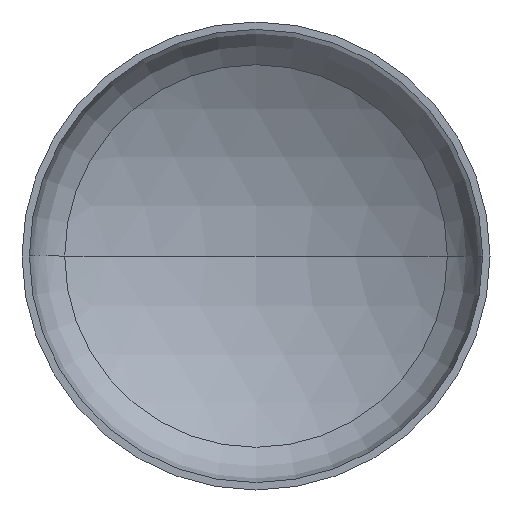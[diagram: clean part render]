
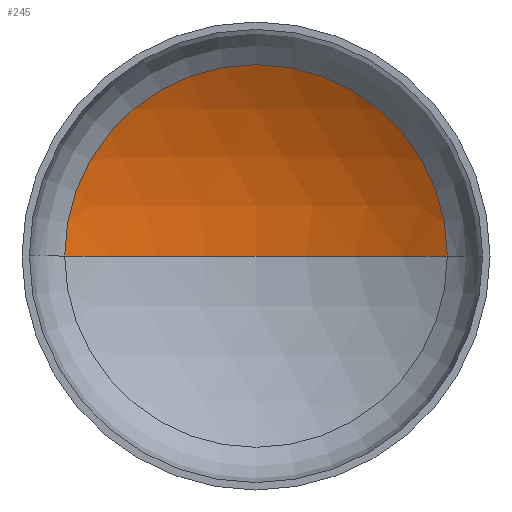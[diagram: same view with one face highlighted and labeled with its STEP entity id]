
A CAD part, front view. The second image highlights one B-rep face of the part: STEP entity #245.
In plain terms, the highlighted spherical face has radius 960 mm.
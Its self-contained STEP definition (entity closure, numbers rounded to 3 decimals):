
#24 = AXIS2_PLACEMENT_3D ( 'NONE', #38, #403, #290 ) ;
#27 = AXIS2_PLACEMENT_3D ( 'NONE', #168, #166, #167 ) ;
#28 = AXIS2_PLACEMENT_3D ( 'NONE', #171, #180, #45 ) ;
#34 = EDGE_LOOP ( 'NONE', ( #340, #118, #103 ) ) ;
#38 = CARTESIAN_POINT ( 'NONE',  ( 0., -606.19, 0. ) ) ;
#45 = DIRECTION ( 'NONE',  ( -1., 0., 0. ) ) ;
#46 = AXIS2_PLACEMENT_3D ( 'NONE', #381, #244, #219 ) ;
#103 = ORIENTED_EDGE ( 'NONE', *, *, #320, .T. ) ;
#118 = ORIENTED_EDGE ( 'NONE', *, *, #337, .T. ) ;
#127 = VERTEX_POINT ( 'NONE', #304 ) ;
#131 = CARTESIAN_POINT ( 'NONE',  ( 490.529, 219.026, 0. ) ) ;
#150 = VERTEX_POINT ( 'NONE', #131 ) ;
#160 = CIRCLE ( 'NONE', #28, 960. ) ;
#166 = DIRECTION ( 'NONE',  ( 0., -1., 0. ) ) ;
#167 = DIRECTION ( 'NONE',  ( 1., 0., 0. ) ) ;
#168 = CARTESIAN_POINT ( 'NONE',  ( 0., 219.026, 0. ) ) ;
#171 = CARTESIAN_POINT ( 'NONE',  ( 0., -606.19, 0. ) ) ;
#180 = DIRECTION ( 'NONE',  ( 0., 0., -1. ) ) ;
#219 = DIRECTION ( 'NONE',  ( -1., 0., 0. ) ) ;
#225 = CIRCLE ( 'NONE', #24, 960. ) ;
#244 = DIRECTION ( 'NONE',  ( 0., 0., -1. ) ) ;
#245 = ADVANCED_FACE ( 'NONE', ( #292 ), #300, .F. ) ;
#260 = CARTESIAN_POINT ( 'NONE',  ( 0., 353.81, 0. ) ) ;
#278 = VERTEX_POINT ( 'NONE', #260 ) ;
#290 = DIRECTION ( 'NONE',  ( 1., 0., 0. ) ) ;
#292 = FACE_OUTER_BOUND ( 'NONE', #34, .T. ) ;
#300 = SPHERICAL_SURFACE ( 'NONE', #46, 960. ) ;
#304 = CARTESIAN_POINT ( 'NONE',  ( -490.529, 219.026, 0. ) ) ;
#320 = EDGE_CURVE ( 'NONE', #150, #127, #348, .T. ) ;
#337 = EDGE_CURVE ( 'NONE', #278, #150, #160, .T. ) ;
#340 = ORIENTED_EDGE ( 'NONE', *, *, #342, .F. ) ;
#342 = EDGE_CURVE ( 'NONE', #278, #127, #225, .T. ) ;
#348 = CIRCLE ( 'NONE', #27, 490.529 ) ;
#381 = CARTESIAN_POINT ( 'NONE',  ( 0., -606.19, 0. ) ) ;
#403 = DIRECTION ( 'NONE',  ( 0., 0., 1. ) ) ;
